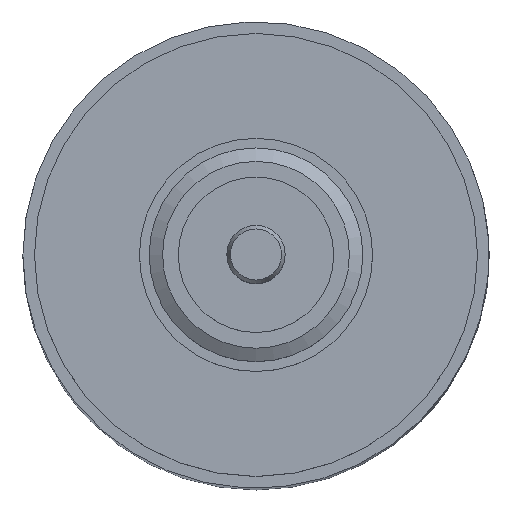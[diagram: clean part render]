
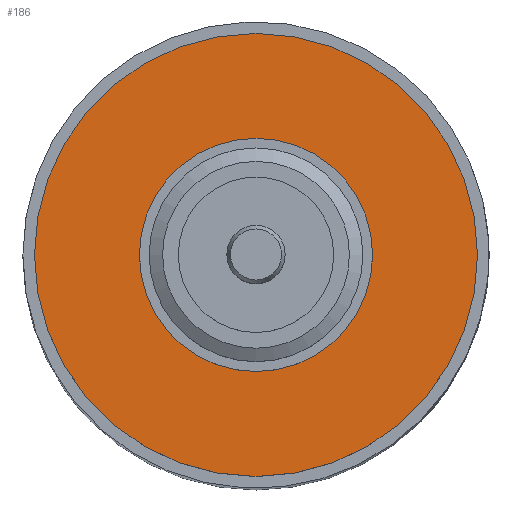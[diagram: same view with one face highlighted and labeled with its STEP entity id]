
A CAD part, top view. The second image highlights one B-rep face of the part: STEP entity #186.
In plain terms, the highlighted planar face has unit normal (0, 0, 1).
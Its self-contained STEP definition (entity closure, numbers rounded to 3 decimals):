
#123=PLANE('',#1604);
#186=ADVANCED_FACE('',(#561,#562),#123,.T.);
#561=FACE_BOUND('',#636,.T.);
#562=FACE_BOUND('',#637,.T.);
#636=EDGE_LOOP('',(#831));
#637=EDGE_LOOP('',(#832));
#831=ORIENTED_EDGE('',*,*,#1371,.F.);
#832=ORIENTED_EDGE('',*,*,#1372,.F.);
#1213=VERTEX_POINT('',#2322);
#1214=VERTEX_POINT('',#2324);
#1371=EDGE_CURVE('',#1213,#1213,#1520,.T.);
#1372=EDGE_CURVE('',#1214,#1214,#1521,.T.);
#1520=CIRCLE('',#1602,3.);
#1521=CIRCLE('',#1603,5.7);
#1602=AXIS2_PLACEMENT_3D('',#2321,#1851,#1852);
#1603=AXIS2_PLACEMENT_3D('',#2323,#1853,#1854);
#1604=AXIS2_PLACEMENT_3D('',#2325,#1855,#1856);
#1851=DIRECTION('',(0.,0.,1.));
#1852=DIRECTION('',(1.,0.,0.));
#1853=DIRECTION('',(0.,0.,-1.));
#1854=DIRECTION('',(-1.,0.,0.));
#1855=DIRECTION('',(0.,0.,1.));
#1856=DIRECTION('',(1.,0.,0.));
#2321=CARTESIAN_POINT('',(0.,0.,0.));
#2322=CARTESIAN_POINT('',(3.,0.,0.));
#2323=CARTESIAN_POINT('',(0.,0.,0.));
#2324=CARTESIAN_POINT('',(-5.7,0.,0.));
#2325=CARTESIAN_POINT('',(0.,0.,0.));
